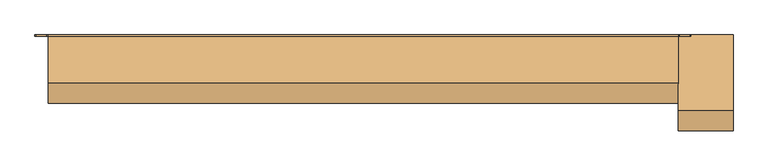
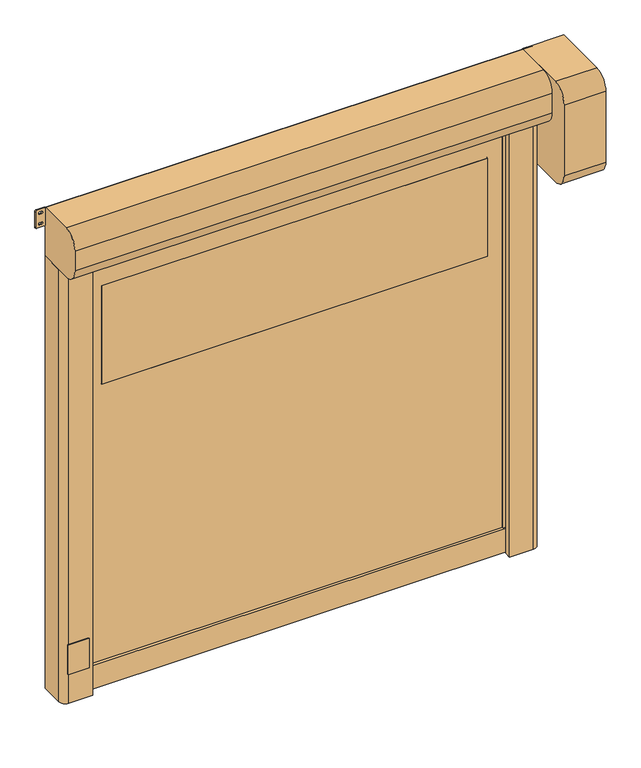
"""IFC4 building model written with IfcOpenShell, lengths in millimetres: door geometry, DO_WPB_Dynamicroll_BMP : Dynamicroll MS150."""

from ifc_helpers import new_model, si_unit, point, frame, frame_2d, origin, origin_with_axes, place, context, project, spatial, polyline, circle_curve, trimmed, segment, composite_curve, outline, extrude, source, transform, mapped, element, save


def door_051ebcf6(model_context):
    return source(origin(), model_context, "Body", "SweptSolid", [
        extrude(outline(composite_curve([segment(trimmed(circle_curve(frame_2d((1416.6666667, 1041.0)), 6.0), [point((1422.6666667, 1041.0))], [point((1410.6666667, 1041.0))], False, "CARTESIAN"), True, "CONTINUOUS"), segment(polyline([(1410.6666667, 1041.0), (1410.6666667, 1059.0)]), True, "CONTINUOUS"), segment(trimmed(circle_curve(frame_2d((1416.6666667, 1059.0)), 6.0), [point((1410.6666667, 1059.0))], [point((1422.6666667, 1059.0))], False, "CARTESIAN"), True, "CONTINUOUS"), segment(polyline([(1422.6666667, 1059.0), (1422.6666667, 1041.0)]), True, "CONTINUOUS")], self_intersect=False)), frame((0.0, -20.0, 0.0), z_axis=(0.0, 1.0, 0.0), x_axis=(0.0, 0.0, 1.0)), (0.0, 0.0, 1.0), 20.0),
        extrude(outline(composite_curve([segment(trimmed(circle_curve(frame_2d((783.3333333, 1041.0)), 6.0), [point((789.3333333, 1041.0))], [point((777.3333333, 1041.0))], False, "CARTESIAN"), True, "CONTINUOUS"), segment(polyline([(777.3333333, 1041.0), (777.3333333, 1059.0)]), True, "CONTINUOUS"), segment(trimmed(circle_curve(frame_2d((783.3333333, 1059.0)), 6.0), [point((777.3333333, 1059.0))], [point((789.3333333, 1059.0))], False, "CARTESIAN"), True, "CONTINUOUS"), segment(polyline([(789.3333333, 1059.0), (789.3333333, 1041.0)]), True, "CONTINUOUS")], self_intersect=False)), frame((0.0, -20.0, 0.0), z_axis=(0.0, 1.0, 0.0), x_axis=(0.0, 0.0, 1.0)), (0.0, 0.0, 1.0), 20.0),
        extrude(outline(composite_curve([segment(trimmed(circle_curve(frame_2d((2050.0, 1041.0)), 6.0), [point((2056.0, 1041.0))], [point((2044.0, 1041.0))], False, "CARTESIAN"), True, "CONTINUOUS"), segment(polyline([(2044.0, 1041.0), (2044.0, 1059.0)]), True, "CONTINUOUS"), segment(trimmed(circle_curve(frame_2d((2050.0, 1059.0)), 6.0), [point((2044.0, 1059.0))], [point((2056.0, 1059.0))], False, "CARTESIAN"), True, "CONTINUOUS"), segment(polyline([(2056.0, 1059.0), (2056.0, 1041.0)]), True, "CONTINUOUS")], self_intersect=False)), frame((0.0, -20.0, 0.0), z_axis=(0.0, 1.0, 0.0), x_axis=(0.0, 0.0, 1.0)), (0.0, 0.0, 1.0), 20.0),
        extrude(outline(composite_curve([segment(trimmed(circle_curve(frame_2d((150.0, 1041.0)), 6.0), [point((156.0, 1041.0))], [point((144.0, 1041.0))], False, "CARTESIAN"), True, "CONTINUOUS"), segment(polyline([(144.0, 1041.0), (144.0, 1059.0)]), True, "CONTINUOUS"), segment(trimmed(circle_curve(frame_2d((150.0, 1059.0)), 6.0), [point((144.0, 1059.0))], [point((156.0, 1059.0))], False, "CARTESIAN"), True, "CONTINUOUS"), segment(polyline([(156.0, 1059.0), (156.0, 1041.0)]), True, "CONTINUOUS")], self_intersect=False)), frame((0.0, -20.0, 0.0), z_axis=(0.0, 1.0, 0.0), x_axis=(0.0, 0.0, 1.0)), (0.0, 0.0, 1.0), 20.0),
        extrude(outline(composite_curve([segment(polyline([(1422.6666667, -1041.0), (1422.6666667, -1059.0)]), True, "CONTINUOUS"), segment(trimmed(circle_curve(frame_2d((1416.6666667, -1059.0)), 6.0), [point((1422.6666667, -1059.0))], [point((1410.6666667, -1059.0))], False, "CARTESIAN"), True, "CONTINUOUS"), segment(polyline([(1410.6666667, -1059.0), (1410.6666667, -1041.0)]), True, "CONTINUOUS"), segment(trimmed(circle_curve(frame_2d((1416.6666667, -1041.0)), 6.0), [point((1410.6666667, -1041.0))], [point((1422.6666667, -1041.0))], False, "CARTESIAN"), True, "CONTINUOUS")], self_intersect=False)), frame((0.0, -20.0, 0.0), z_axis=(0.0, 1.0, 0.0), x_axis=(0.0, 0.0, 1.0)), (0.0, 0.0, 1.0), 20.0),
        extrude(outline(composite_curve([segment(polyline([(789.3333333, -1041.0), (789.3333333, -1059.0)]), True, "CONTINUOUS"), segment(trimmed(circle_curve(frame_2d((783.3333333, -1059.0)), 6.0), [point((789.3333333, -1059.0))], [point((777.3333333, -1059.0))], False, "CARTESIAN"), True, "CONTINUOUS"), segment(polyline([(777.3333333, -1059.0), (777.3333333, -1041.0)]), True, "CONTINUOUS"), segment(trimmed(circle_curve(frame_2d((783.3333333, -1041.0)), 6.0), [point((777.3333333, -1041.0))], [point((789.3333333, -1041.0))], False, "CARTESIAN"), True, "CONTINUOUS")], self_intersect=False)), frame((0.0, -20.0, 0.0), z_axis=(0.0, 1.0, 0.0), x_axis=(0.0, 0.0, 1.0)), (0.0, 0.0, 1.0), 20.0),
        extrude(outline(composite_curve([segment(polyline([(2056.0, -1041.0), (2056.0, -1059.0)]), True, "CONTINUOUS"), segment(trimmed(circle_curve(frame_2d((2050.0, -1059.0)), 6.0), [point((2056.0, -1059.0))], [point((2044.0, -1059.0))], False, "CARTESIAN"), True, "CONTINUOUS"), segment(polyline([(2044.0, -1059.0), (2044.0, -1041.0)]), True, "CONTINUOUS"), segment(trimmed(circle_curve(frame_2d((2050.0, -1041.0)), 6.0), [point((2044.0, -1041.0))], [point((2056.0, -1041.0))], False, "CARTESIAN"), True, "CONTINUOUS")], self_intersect=False)), frame((0.0, -20.0, 0.0), z_axis=(0.0, 1.0, 0.0), x_axis=(0.0, 0.0, 1.0)), (0.0, 0.0, 1.0), 20.0),
        extrude(outline(composite_curve([segment(polyline([(156.0, -1041.0), (156.0, -1059.0)]), True, "CONTINUOUS"), segment(trimmed(circle_curve(frame_2d((150.0, -1059.0)), 6.0), [point((156.0, -1059.0))], [point((144.0, -1059.0))], False, "CARTESIAN"), True, "CONTINUOUS"), segment(polyline([(144.0, -1059.0), (144.0, -1041.0)]), True, "CONTINUOUS"), segment(trimmed(circle_curve(frame_2d((150.0, -1041.0)), 6.0), [point((144.0, -1041.0))], [point((156.0, -1041.0))], False, "CARTESIAN"), True, "CONTINUOUS")], self_intersect=False)), frame((0.0, -20.0, 0.0), z_axis=(0.0, 1.0, 0.0), x_axis=(0.0, 0.0, 1.0)), (0.0, 0.0, 1.0), 20.0),
        extrude(outline(composite_curve([segment(trimmed(circle_curve(frame_2d((1526.0, 929.0)), 1.0), [point((1525.0, 929.0))], [point((1526.0, 930.0))], False, "CARTESIAN"), True, "CONTINUOUS"), segment(polyline([(1526.0, 930.0), (2024.0, 930.0)]), True, "CONTINUOUS"), segment(trimmed(circle_curve(frame_2d((2024.0, 929.0)), 1.0), [point((2024.0, 930.0))], [point((2025.0, 929.0))], False, "CARTESIAN"), True, "CONTINUOUS"), segment(polyline([(2025.0, 929.0), (2025.0, -929.0)]), True, "CONTINUOUS"), segment(trimmed(circle_curve(frame_2d((2024.0, -929.0)), 1.0), [point((2025.0, -929.0))], [point((2024.0, -930.0))], False, "CARTESIAN"), True, "CONTINUOUS"), segment(polyline([(2024.0, -930.0), (1526.0, -930.0)]), True, "CONTINUOUS"), segment(trimmed(circle_curve(frame_2d((1526.0, -929.0)), 1.0), [point((1526.0, -930.0))], [point((1525.0, -929.0))], False, "CARTESIAN"), True, "CONTINUOUS"), segment(polyline([(1525.0, -929.0), (1525.0, 929.0)]), True, "CONTINUOUS")], self_intersect=False)), frame((0.0, -91.0, 0.0), z_axis=(0.0, 1.0, 0.0), x_axis=(0.0, 0.0, 1.0)), (0.0, 0.0, 1.0), 7.0),
        extrude(outline(polyline([(120.0, -1012.0), (120.0, 1012.0), (2325.0, 1012.0), (2325.0, -1012.0), (120.0, -1012.0)]), holes=[composite_curve([segment(trimmed(circle_curve(frame_2d((1526.0, 929.0)), 1.0), [point((1526.0, 930.0))], [point((1525.0, 929.0))], True, "CARTESIAN"), True, "CONTINUOUS"), segment(polyline([(1525.0, 929.0), (1525.0, -929.0)]), True, "CONTINUOUS"), segment(trimmed(circle_curve(frame_2d((1526.0, -929.0)), 1.0), [point((1525.0, -929.0))], [point((1526.0, -930.0))], True, "CARTESIAN"), True, "CONTINUOUS"), segment(polyline([(1526.0, -930.0), (2024.0, -930.0)]), True, "CONTINUOUS"), segment(trimmed(circle_curve(frame_2d((2024.0, -929.0)), 1.0), [point((2024.0, -930.0))], [point((2025.0, -929.0))], True, "CARTESIAN"), True, "CONTINUOUS"), segment(polyline([(2025.0, -929.0), (2025.0, 929.0)]), True, "CONTINUOUS"), segment(trimmed(circle_curve(frame_2d((2024.0, 929.0)), 1.0), [point((2025.0, 929.0))], [point((2024.0, 930.0))], True, "CARTESIAN"), True, "CONTINUOUS"), segment(polyline([(2024.0, 930.0), (1526.0, 930.0)]), True, "CONTINUOUS")], self_intersect=False)]), frame((0.0, -91.0, 0.0), z_axis=(0.0, 1.0, 0.0), x_axis=(0.0, 0.0, 1.0)), (0.0, 0.0, 1.0), 7.0),
        extrude(outline(polyline([(-1012.0, -69.5), (1012.0, -69.5), (1012.0, -105.5), (-1012.0, -105.5), (-1012.0, -69.5)])), origin_with_axes(), (0.0, 0.0, 1.0), 120.0),
        extrude(outline(composite_curve([segment(polyline([(-1150.0, 0.0), (-1015.0, 0.0), (-1015.0, -71.7857143), (-1035.0, -77.5), (-1000.0, -77.5), (-1000.0, -84.0), (-1020.0, -84.0), (-1020.0, -91.0), (-1000.0, -91.0), (-1000.0, -97.5), (-1035.0, -97.5), (-1035.0, -112.5), (-1005.0, -112.5), (-1005.0, -145.0), (-1120.0, -145.0)]), True, "CONTINUOUS"), segment(trimmed(circle_curve(frame_2d((-1120.0, -115.0)), 30.0), [point((-1120.0, -145.0))], [point((-1150.0, -115.0))], False, "CARTESIAN"), True, "CONTINUOUS"), segment(polyline([(-1150.0, -115.0), (-1150.0, 0.0)]), True, "CONTINUOUS")], self_intersect=False)), origin_with_axes(), (0.0, 0.0, 1.0), 2200.0),
        extrude(outline(composite_curve([segment(polyline([(1150.0, 0.0), (1150.0, -115.0)]), True, "CONTINUOUS"), segment(trimmed(circle_curve(frame_2d((1120.0, -115.0)), 30.0), [point((1150.0, -115.0))], [point((1120.0, -145.0))], False, "CARTESIAN"), True, "CONTINUOUS"), segment(polyline([(1120.0, -145.0), (1005.0, -145.0), (1005.0, -112.5), (1035.0, -112.5), (1035.0, -97.5), (1000.0, -97.5), (1000.0, -91.0), (1020.0, -91.0), (1020.0, -84.0), (1000.0, -84.0), (1000.0, -77.5), (1035.0, -77.5), (1015.0, -71.7857143), (1015.0, 0.0), (1150.0, 0.0)]), True, "CONTINUOUS")], self_intersect=False)), origin_with_axes(), (0.0, 0.0, 1.0), 2200.0),
        extrude(outline(polyline([(-1125.0, -145.0), (-1025.0, -145.0), (-1025.0, -150.0), (-1125.0, -150.0), (-1125.0, -145.0)])), frame((0.0, 0.0, 150.0), z_axis=(0.0, 0.0, 1.0), x_axis=(1.0, 0.0, 0.0)), (0.0, 0.0, 1.0), 150.0),
        extrude(outline(composite_curve([segment(trimmed(circle_curve(frame_2d((2363.75, -1193.25)), 5.75), [point((2363.75, -1199.0))], [point((2358.0, -1193.25))], False, "CARTESIAN"), True, "CONTINUOUS"), segment(polyline([(2358.0, -1193.25), (2358.0, -1155.75)]), True, "CONTINUOUS"), segment(trimmed(circle_curve(frame_2d((2363.75, -1155.75)), 5.75), [point((2358.0, -1155.75))], [point((2363.75, -1150.0))], False, "CARTESIAN"), True, "CONTINUOUS"), segment(polyline([(2363.75, -1150.0), (2444.25, -1150.0)]), True, "CONTINUOUS"), segment(trimmed(circle_curve(frame_2d((2444.25, -1155.75)), 5.75), [point((2444.25, -1150.0))], [point((2450.0, -1155.75))], False, "CARTESIAN"), True, "CONTINUOUS"), segment(polyline([(2450.0, -1155.75), (2450.0, -1193.25)]), True, "CONTINUOUS"), segment(trimmed(circle_curve(frame_2d((2444.25, -1193.25)), 5.75), [point((2450.0, -1193.25))], [point((2444.25, -1199.0))], False, "CARTESIAN"), True, "CONTINUOUS"), segment(polyline([(2444.25, -1199.0), (2363.75, -1199.0)]), True, "CONTINUOUS")], self_intersect=False), holes=[composite_curve([segment(trimmed(circle_curve(frame_2d((2431.5, -1170.25)), 5.75), [point((2437.25, -1170.25))], [point((2425.75, -1170.25))], True, "CARTESIAN"), True, "CONTINUOUS"), segment(polyline([(2425.75, -1170.25), (2425.75, -1178.75)]), True, "CONTINUOUS"), segment(trimmed(circle_curve(frame_2d((2431.5, -1178.75)), 5.75), [point((2425.75, -1178.75))], [point((2437.25, -1178.75))], True, "CARTESIAN"), True, "CONTINUOUS"), segment(polyline([(2437.25, -1178.75), (2437.25, -1170.25)]), True, "CONTINUOUS")], self_intersect=False), composite_curve([segment(trimmed(circle_curve(frame_2d((2376.5, -1170.25)), 5.75), [point((2382.25, -1170.25))], [point((2370.75, -1170.25))], True, "CARTESIAN"), True, "CONTINUOUS"), segment(polyline([(2370.75, -1170.25), (2370.75, -1178.75)]), True, "CONTINUOUS"), segment(trimmed(circle_curve(frame_2d((2376.5, -1178.75)), 5.75), [point((2370.75, -1178.75))], [point((2382.25, -1178.75))], True, "CARTESIAN"), True, "CONTINUOUS"), segment(polyline([(2382.25, -1178.75), (2382.25, -1170.25)]), True, "CONTINUOUS")], self_intersect=False)]), frame((0.0, -5.0, 0.0), z_axis=(0.0, 1.0, 0.0), x_axis=(0.0, 0.0, 1.0)), (0.0, 0.0, 1.0), 5.0),
        extrude(outline(composite_curve([segment(trimmed(circle_curve(frame_2d((2363.75, 1155.75)), 5.75), [point((2363.75, 1150.0))], [point((2358.0, 1155.75))], False, "CARTESIAN"), True, "CONTINUOUS"), segment(polyline([(2358.0, 1155.75), (2358.0, 1193.25)]), True, "CONTINUOUS"), segment(trimmed(circle_curve(frame_2d((2363.75, 1193.25)), 5.75), [point((2358.0, 1193.25))], [point((2363.75, 1199.0))], False, "CARTESIAN"), True, "CONTINUOUS"), segment(polyline([(2363.75, 1199.0), (2444.25, 1199.0)]), True, "CONTINUOUS"), segment(trimmed(circle_curve(frame_2d((2444.25, 1193.25)), 5.75), [point((2444.25, 1199.0))], [point((2450.0, 1193.25))], False, "CARTESIAN"), True, "CONTINUOUS"), segment(polyline([(2450.0, 1193.25), (2450.0, 1155.75)]), True, "CONTINUOUS"), segment(trimmed(circle_curve(frame_2d((2444.25, 1155.75)), 5.75), [point((2450.0, 1155.75))], [point((2444.25, 1150.0))], False, "CARTESIAN"), True, "CONTINUOUS"), segment(polyline([(2444.25, 1150.0), (2363.75, 1150.0)]), True, "CONTINUOUS")], self_intersect=False), holes=[composite_curve([segment(trimmed(circle_curve(frame_2d((2431.5, 1178.75)), 5.75), [point((2437.25, 1178.75))], [point((2425.75, 1178.75))], True, "CARTESIAN"), True, "CONTINUOUS"), segment(polyline([(2425.75, 1178.75), (2425.75, 1170.25)]), True, "CONTINUOUS"), segment(trimmed(circle_curve(frame_2d((2431.5, 1170.25)), 5.75), [point((2425.75, 1170.25))], [point((2437.25, 1170.25))], True, "CARTESIAN"), True, "CONTINUOUS"), segment(polyline([(2437.25, 1170.25), (2437.25, 1178.75)]), True, "CONTINUOUS")], self_intersect=False), composite_curve([segment(trimmed(circle_curve(frame_2d((2376.5, 1178.75)), 5.75), [point((2382.25, 1178.75))], [point((2370.75, 1178.75))], True, "CARTESIAN"), True, "CONTINUOUS"), segment(polyline([(2370.75, 1178.75), (2370.75, 1170.25)]), True, "CONTINUOUS"), segment(trimmed(circle_curve(frame_2d((2376.5, 1170.25)), 5.75), [point((2370.75, 1170.25))], [point((2382.25, 1170.25))], True, "CARTESIAN"), True, "CONTINUOUS"), segment(polyline([(2382.25, 1170.25), (2382.25, 1178.75)]), True, "CONTINUOUS")], self_intersect=False)]), frame((0.0, -5.0, 0.0), z_axis=(0.0, 1.0, 0.0), x_axis=(0.0, 0.0, 1.0)), (0.0, 0.0, 1.0), 5.0),
        extrude(outline(composite_curve([segment(trimmed(circle_curve(frame_2d((-5.0, 2205.0)), 5.0), [point((0.0, 2205.0))], [point((-5.0, 2200.0))], False, "CARTESIAN"), True, "CONTINUOUS"), segment(polyline([(-5.0, 2200.0), (-175.0, 2200.0)]), True, "CONTINUOUS"), segment(trimmed(circle_curve(frame_2d((-175.0, 2275.0)), 75.0), [point((-175.0, 2200.0))], [point((-250.0, 2275.0))], False, "CARTESIAN"), True, "CONTINUOUS"), segment(polyline([(-250.0, 2275.0), (-250.0, 2375.0)]), True, "CONTINUOUS"), segment(trimmed(circle_curve(frame_2d((-175.0, 2375.0)), 75.0), [point((-250.0, 2375.0))], [point((-175.0, 2450.0))], False, "CARTESIAN"), True, "CONTINUOUS"), segment(polyline([(-175.0, 2450.0), (-5.0, 2450.0)]), True, "CONTINUOUS"), segment(trimmed(circle_curve(frame_2d((-5.0, 2445.0)), 5.0), [point((-5.0, 2450.0))], [point((0.0, 2445.0))], False, "CARTESIAN"), True, "CONTINUOUS"), segment(polyline([(0.0, 2445.0), (0.0, 2205.0)]), True, "CONTINUOUS")], self_intersect=False)), frame((-1150.0, 0.0, 0.0), z_axis=(1.0, 0.0, 0.0), x_axis=(0.0, 1.0, 0.0)), (0.0, 0.0, 1.0), 2300.0),
        extrude(outline(composite_curve([segment(polyline([(0.0, 2450.0), (0.0, 1940.0), (-275.0, 1940.0)]), True, "CONTINUOUS"), segment(trimmed(circle_curve(frame_2d((-275.0, 2015.0)), 75.0), [point((-275.0, 1940.0))], [point((-350.0, 2015.0))], False, "CARTESIAN"), True, "CONTINUOUS"), segment(polyline([(-350.0, 2015.0), (-350.0, 2375.0)]), True, "CONTINUOUS"), segment(trimmed(circle_curve(frame_2d((-275.0, 2375.0)), 75.0), [point((-350.0, 2375.0))], [point((-275.0, 2450.0))], False, "CARTESIAN"), True, "CONTINUOUS"), segment(polyline([(-275.0, 2450.0), (0.0, 2450.0)]), True, "CONTINUOUS")], self_intersect=False)), frame((1150.0, 0.0, 0.0), z_axis=(1.0, 0.0, 0.0), x_axis=(0.0, 1.0, 0.0)), (0.0, 0.0, 1.0), 200.0),
    ])


if __name__ == "__main__":
    model = new_model("IFC4")
    model_context = context("Model", 3, world=origin())
    ifc_project = project(units=[si_unit("LENGTHUNIT", "METRE", prefix="MILLI")], contexts=[model_context])
    site = spatial("IfcSite", under=ifc_project)
    building = spatial("IfcBuilding", under=site)
    placement = place(None, origin())
    door_shape = door_051ebcf6(model_context)
    element("IfcDoor", 1, ObjectType="DO_WPB_Dynamicroll_BMP : Dynamicroll MS150", at=placement, inside=building, context=model_context, shape_type="MappedRepresentation", body=[
        mapped(door_shape, transform((0.0, 0.0, 0.0), x_axis=(1.0, 0.0, 0.0), y_axis=(0.0, 1.0, 0.0), z_axis=(0.0, 0.0, 1.0))),
    ])
    save(model, "model.ifc")
